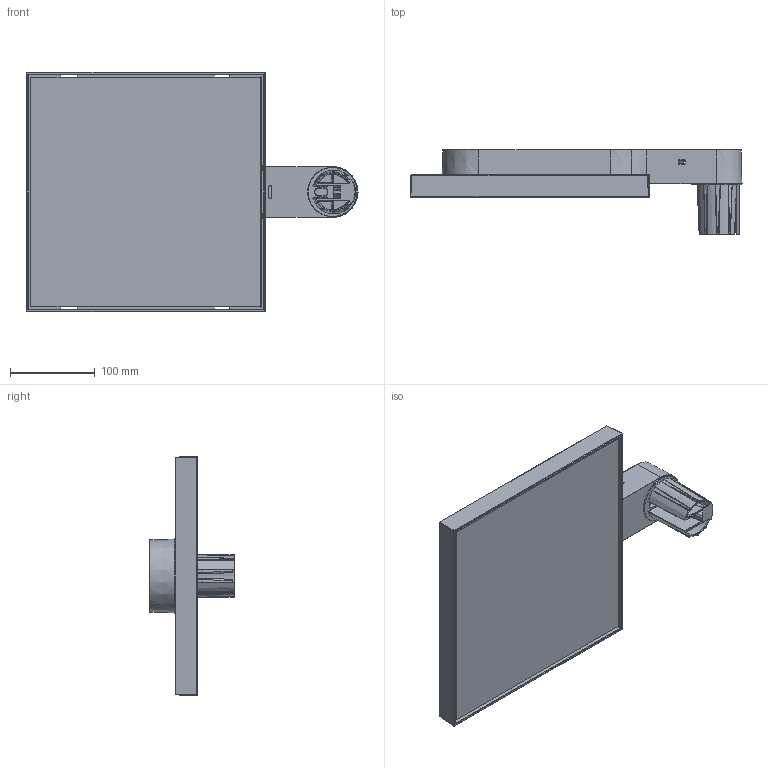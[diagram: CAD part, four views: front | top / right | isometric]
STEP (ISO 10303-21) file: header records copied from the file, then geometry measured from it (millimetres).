
FILE_DESCRIPTION((''),'2;1');
FILE_NAME('RAPPR_DI_DEFAULT_SW','2025-07-30T08:20:24',('Piccioli'),(''),'CREO PARAMETRIC BY PTC INC, 2025010','CREO PARAMETRIC BY PTC INC, 2025010','');
FILE_SCHEMA(('CONFIG_CONTROL_DESIGN'));
Products named in the file (1): RAPPR_DI_DEFAULT_SW
Bounding box: 391.08 x 100 x 282.18 mm (x, y, z)
Surface area: 476427.4 mm2 (no closed solid volume)
Topology: 0 solids, 145 shells, 1047 faces, 4766 edges, 3823 vertices
Faces by surface type: plane 420, cylinder 281, bspline 168, cone 121, torus 57
Entity records: 77800 total; most frequent: CARTESIAN_POINT 44170, DIRECTION 6044, ORIENTED_EDGE 5886, EDGE_CURVE 4766, VERTEX_POINT 3823, VECTOR 2072, LINE 2072, AXIS2_PLACEMENT_3D 1986
